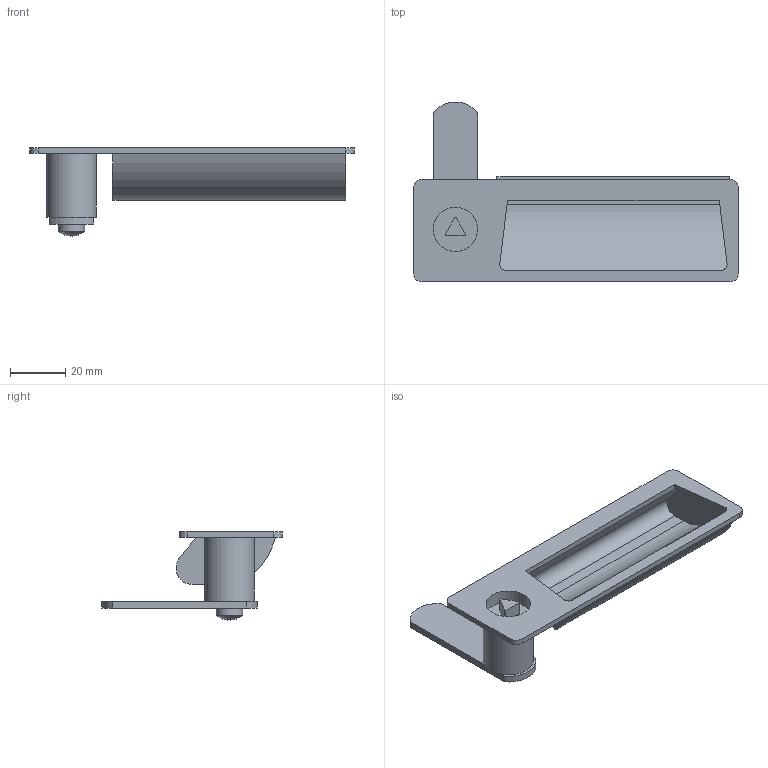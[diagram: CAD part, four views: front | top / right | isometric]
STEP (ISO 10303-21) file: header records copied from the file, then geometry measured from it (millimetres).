
FILE_DESCRIPTION( ( 'STEP AP203' ), '1' );
FILE_NAME( 'C:/Temp/Ganter_Step_05_03_2020/data/3_3/gn731_5/gn731_5_1/Latche with gripping tray GN 731.5-DK-0-46-1-SG (0-23).stp', '2020-03-12T11:49:16', ( 'License CC BY-ND 4.0' ), ( 'CADENAS' ), ' ', 'PARTsolutions', ' ' );
FILE_SCHEMA( ( 'CONFIG_CONTROL_DESIGN' ) );
Length unit declared in the file: millimetre
Products named in the file (3): Latche with gripping tray GN 731.5-DK-0-46-1-SG (0-23); _Latche with gripping tray GN 731.5-DK-0-46-1-SG (0)_1; _Latche with gripping tray GN 731.5-DK-0-46-1-SG (0-23)_2
Assembly tree (2 placements, depth 2):
  Latche with gripping tray GN 731.5-DK-0-46-1-SG (0-23)
    _Latche with gripping tray GN 731.5-DK-0-46-1-SG (0)_1
    _Latche with gripping tray GN 731.5-DK-0-46-1-SG (0-23)_2
Bounding box: 117 x 64.96 x 31.88 mm (x, y, z)
Volume: 24295.6 mm3; surface area: 20481.5 mm2
Topology: 2 solids, 2 shells, 87 faces, 221 edges, 144 vertices
Faces by surface type: plane 63, cylinder 23, sphere 1
Full cylindrical faces by diameter (mm): 9.5 x1, 16 x1, 18 x1
Entity records: 2687 total; most frequent: DIRECTION 461, CARTESIAN_POINT 445, ORIENTED_EDGE 428, EDGE_CURVE 214, AXIS2_PLACEMENT_3D 157, LINE 147, VECTOR 147, VERTEX_POINT 141
